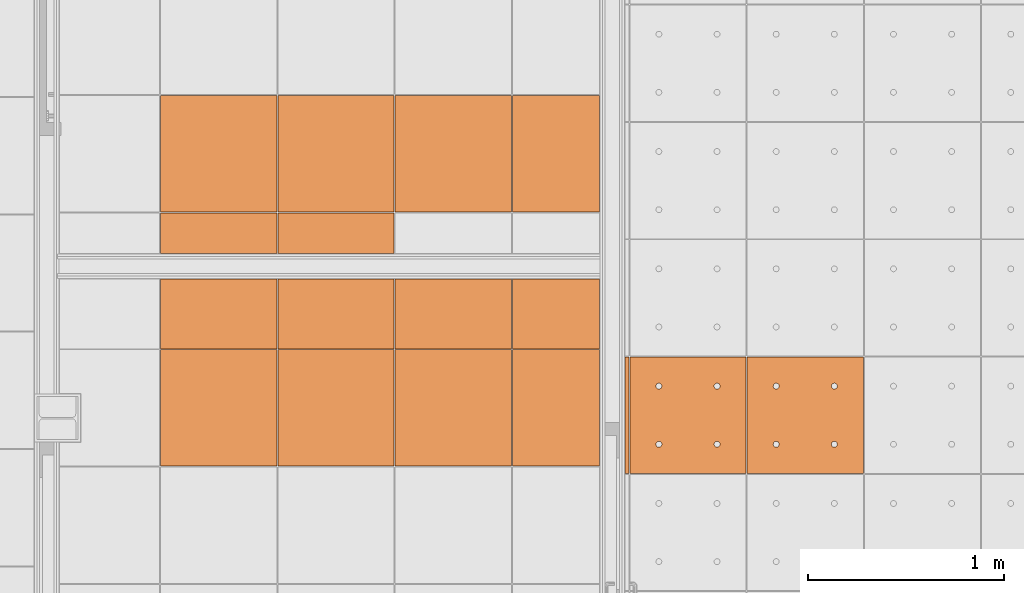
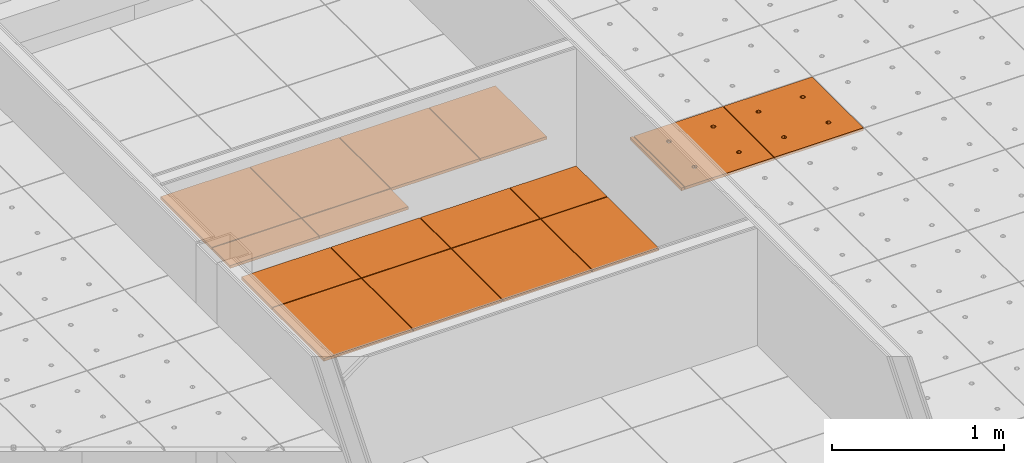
# One storey, part 299 of 338: 17 proxies, 3 elements without a shape of their own.
"""IFC2X3 building model written with IfcOpenShell, lengths in millimetres."""

from ifc_helpers import new_model, entity, si_unit, converted_unit, derived_unit, money_unit, direction, frame, origin_with_axes, place, context, subcontext, project, spatial, faceted_brep, source, transform, mapped, material, type_object, type_shapes, element, aggregate, save


model = new_model("IFC2X3")

# Units and contexts
model_context = context("Model", 3, precision=0.01, world=origin_with_axes(), true_north=direction((0.0, 1.0)))
plan_context = context("Plan", 3, precision=0.01, world=origin_with_axes(), true_north=direction((0.0, 1.0)))
body_context = subcontext(model_context, "Body", "Model", "MODEL_VIEW")
ifc_project = project(units=[si_unit("LENGTHUNIT", "METRE", prefix="MILLI"), si_unit("AREAUNIT", "SQUARE_METRE"), si_unit("VOLUMEUNIT", "CUBIC_METRE"), converted_unit("PLANEANGLEUNIT", "DEGREE", entity("IfcPlaneAngleMeasure", 0.0174532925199), si_unit("PLANEANGLEUNIT", "RADIAN"), dimensions=[0, 0, 0, 0, 0, 0, 0]), money_unit("EUR"), converted_unit("TIMEUNIT", "Year", entity("IfcTimeMeasure", 31556926.0), si_unit("TIMEUNIT", "SECOND"), dimensions=[0, 0, 1, 0, 0, 0, 0]), si_unit("MASSUNIT", "GRAM", prefix="KILO"), si_unit("THERMODYNAMICTEMPERATUREUNIT", "DEGREE_CELSIUS"), si_unit("LUMINOUSINTENSITYUNIT", "LUMEN"), si_unit("ENERGYUNIT", "JOULE", prefix="MEGA"), derived_unit("THERMALCONDUCTANCEUNIT", [(si_unit("POWERUNIT", "WATT"), 1), (si_unit("LENGTHUNIT", "METRE"), -1), (si_unit("THERMODYNAMICTEMPERATUREUNIT", "KELVIN"), -1)]), derived_unit("SPECIFICHEATCAPACITYUNIT", [(si_unit("ENERGYUNIT", "JOULE"), 1), (si_unit("MASSUNIT", "GRAM", prefix="KILO"), -1), (si_unit("THERMODYNAMICTEMPERATUREUNIT", "KELVIN"), -1)]), derived_unit("MASSDENSITYUNIT", [(si_unit("MASSUNIT", "GRAM", prefix="KILO"), 1), (si_unit("VOLUMEUNIT", "CUBIC_METRE"), -1)])], contexts=[model_context, plan_context])

# Site, building, storey
site_placement = place(None, origin_with_axes())
site = spatial("IfcSite", under=ifc_project, at=site_placement, Name="Fortuinstraat Woensdrecht", CompositionType="ELEMENT")
building_placement = place(site_placement, origin_with_axes())
building = spatial("IfcBuilding", under=site, at=building_placement, Name="IKC Fortuna", CompositionType="ELEMENT")
storey_placement = place(building_placement, origin_with_axes())
storey = spatial("IfcBuildingStorey", under=building, at=storey_placement, Name="00 begane grond", CompositionType="ELEMENT", Elevation=0.0)

# Covering, proxies
covering_type = type_object("IfcCoveringType", Name="Curtain Wall Type", PredefinedType="CEILING")
covering_1_placement = place(storey_placement, frame((21994.4445848, 33013.5541843, 2810.0), z_axis=(0.0, 0.0, 1.0), x_axis=(1.0, 0.0, 0.0)))
covering_1 = element("IfcCovering", 1, at=covering_1_placement, inside=storey, type_object=covering_type, Name="45_Plafondafwerking_P02", PredefinedType="CEILING")
ifc_material = material(Name="Gipsplaat")
building_element_proxy_type_1 = type_object("IfcBuildingElementProxyType", Name="Distinct Panel 600 x 600 x 20", PredefinedType="NOTDEFINED")
shared_shape_1 = source(origin_with_axes(), body_context, "Body", "Brep", [
    faceted_brep([(2.49999999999, 2.5, -10.0), (597.5, 2.49999999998, -10.0), (597.5, 2.49999999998, 10.0), (2.49999999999, 2.5, 10.0), (2.50000000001, 597.5, -10.0), (597.5, 597.5, -10.0), (597.5, 597.5, 10.0), (2.50000000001, 597.5, 10.0)], [[[0, 1, 2, 3]], [[0, 4, 5, 1]], [[1, 5, 6, 2]], [[3, 2, 6, 7]], [[4, 0, 3, 7]], [[5, 4, 7, 6]]]),
])
type_shapes(building_element_proxy_type_1, [shared_shape_1])
proxy_1_placement = place(covering_1_placement, frame((-600.0, 406.242354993, 0.0), z_axis=(0.0, 0.0, 1.0), x_axis=(1.0, 0.0, 0.0)))
proxy_1 = element("IfcBuildingElementProxy", 2, at=proxy_1_placement, type_object=building_element_proxy_type_1, material=ifc_material, Name="__Panel-D", context=body_context, shape_type="MappedRepresentation", body=[
    mapped(shared_shape_1, transform((300.0, 300.0, 0.0), x_axis=(-1.0, 0.0, 0.0), y_axis=(0.0, -1.0, 0.0), z_axis=(0.0, 0.0, 1.0))),
])
proxy_2_placement = place(covering_1_placement, frame((0.0, 406.242354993, 0.0), z_axis=(0.0, 0.0, 1.0), x_axis=(1.0, 0.0, 0.0)))
proxy_2 = element("IfcBuildingElementProxy", 3, at=proxy_2_placement, type_object=building_element_proxy_type_1, material=ifc_material, Name="__Panel-D", context=body_context, shape_type="MappedRepresentation", body=[
    mapped(shared_shape_1, transform((300.0, 300.0, 0.0), x_axis=(-1.0, 0.0, 0.0), y_axis=(0.0, -1.0, 0.0), z_axis=(0.0, 0.0, 1.0))),
])
proxy_3_placement = place(covering_1_placement, frame((600.0, 406.242354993, 0.0), z_axis=(0.0, 0.0, 1.0), x_axis=(1.0, 0.0, 0.0)))
proxy_3 = element("IfcBuildingElementProxy", 4, at=proxy_3_placement, type_object=building_element_proxy_type_1, material=ifc_material, Name="__Panel-D", context=body_context, shape_type="MappedRepresentation", body=[
    mapped(shared_shape_1, transform((300.0, 300.0, 0.0), x_axis=(-1.0, 0.0, 0.0), y_axis=(0.0, -1.0, 0.0), z_axis=(0.0, 0.0, 1.0))),
])

covering_2_placement = place(storey_placement, frame((22594.4446507, 31013.6071773, 2810.0), z_axis=(0.0, 0.0, 1.0), x_axis=(1.0, 0.0, 0.0)))
covering_2 = element("IfcCovering", 5, at=covering_2_placement, inside=storey, type_object=covering_type, Name="45_Plafondafwerking_P02", PredefinedType="CEILING")
proxy_4_placement = place(covering_2_placement, frame((-1200.0, 1106.20459282, 0.0), z_axis=(0.0, 0.0, 1.0), x_axis=(1.0, 0.0, 0.0)))
proxy_4 = element("IfcBuildingElementProxy", 6, at=proxy_4_placement, type_object=building_element_proxy_type_1, material=ifc_material, Name="__Panel-D", context=body_context, shape_type="MappedRepresentation", body=[
    mapped(shared_shape_1, transform((300.0, 300.0, 0.0), x_axis=(-1.0, 0.0, 0.0), y_axis=(0.0, -1.0, 0.0), z_axis=(0.0, 0.0, 1.0))),
])
proxy_5_placement = place(covering_2_placement, frame((0.0, 1106.20459282, 0.0), z_axis=(0.0, 0.0, 1.0), x_axis=(1.0, 0.0, 0.0)))
proxy_5 = element("IfcBuildingElementProxy", 7, at=proxy_5_placement, type_object=building_element_proxy_type_1, material=ifc_material, Name="__Panel-D", context=body_context, shape_type="MappedRepresentation", body=[
    mapped(shared_shape_1, transform((300.0, 300.0, 0.0), x_axis=(-1.0, 0.0, 0.0), y_axis=(0.0, -1.0, 0.0), z_axis=(0.0, 0.0, 1.0))),
])
proxy_6_placement = place(covering_2_placement, frame((-600.0, 1106.20459282, 0.0), z_axis=(0.0, 0.0, 1.0), x_axis=(1.0, 0.0, 0.0)))
proxy_6 = element("IfcBuildingElementProxy", 8, at=proxy_6_placement, type_object=building_element_proxy_type_1, material=ifc_material, Name="__Panel-D", context=body_context, shape_type="MappedRepresentation", body=[
    mapped(shared_shape_1, transform((300.0, 300.0, 0.0), x_axis=(-1.0, 0.0, 0.0), y_axis=(0.0, -1.0, 0.0), z_axis=(0.0, 0.0, 1.0))),
])

# Proxy
building_element_proxy_type_2 = type_object("IfcBuildingElementProxyType", Name="Distinct Panel 600 x 212 x 20", PredefinedType="NOTDEFINED")
shared_shape_2 = source(origin_with_axes(), body_context, "Body", "Brep", [
    faceted_brep([(2.5, 2.49999859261, -10.0), (597.5, 2.4999985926, -10.0), (597.5, 2.4999985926, 10.0), (2.5, 2.49999859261, 10.0), (2.5, 209.984709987, -10.0), (597.5, 209.984709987, -10.0), (597.5, 209.984709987, 10.0), (2.5, 209.984709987, 10.0)], [[[0, 1, 2, 3]], [[0, 4, 5, 1]], [[1, 5, 6, 2]], [[3, 2, 6, 7]], [[4, 0, 3, 7]], [[5, 4, 7, 6]]]),
])
type_shapes(building_element_proxy_type_2, [shared_shape_2])
proxy_7_placement = place(covering_1_placement, origin_with_axes())
proxy_7 = element("IfcBuildingElementProxy", 9, at=proxy_7_placement, type_object=building_element_proxy_type_2, material=ifc_material, Name="__Panel-D", context=body_context, shape_type="MappedRepresentation", body=[
    mapped(shared_shape_2, transform((300.0, 106.242354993, 0.0), x_axis=(-1.0, 0.0, 0.0), y_axis=(0.0, -1.0, 0.0), z_axis=(0.0, 0.0, 1.0))),
])

proxy_8_placement = place(covering_1_placement, frame((-600.0, 0.0, 0.0), z_axis=(0.0, 0.0, 1.0), x_axis=(1.0, 0.0, 0.0)))
proxy_8 = element("IfcBuildingElementProxy", 10, at=proxy_8_placement, type_object=building_element_proxy_type_2, material=ifc_material, Name="__Panel-D", context=body_context, shape_type="MappedRepresentation", body=[
    mapped(shared_shape_2, transform((300.0, 106.242354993, 0.0), x_axis=(-1.0, 0.0, 0.0), y_axis=(0.0, -1.0, 0.0), z_axis=(0.0, 0.0, 1.0))),
])

building_element_proxy_type_3 = type_object("IfcBuildingElementProxyType", Name="Distinct Panel 450 x 600 x 20", PredefinedType="NOTDEFINED")
shared_shape_3 = source(origin_with_axes(), body_context, "Body", "Brep", [
    faceted_brep([(152.589639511, 2.5, -10.0), (597.5, 2.49999999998, -10.0), (597.5, 2.49999999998, 10.0), (152.589639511, 2.5, 10.0), (152.589639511, 597.5, -10.0), (597.5, 597.5, -10.0), (597.5, 597.5, 10.0), (152.589639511, 597.5, 10.0)], [[[0, 1, 2, 3]], [[0, 4, 5, 1]], [[1, 5, 6, 2]], [[3, 2, 6, 7]], [[4, 0, 3, 7]], [[5, 4, 7, 6]]]),
])
type_shapes(building_element_proxy_type_3, [shared_shape_3])
proxy_9_placement = place(covering_1_placement, frame((1124.95518014, 406.242354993, 0.0), z_axis=(0.0, 0.0, 1.0), x_axis=(1.0, 0.0, 0.0)))
proxy_9 = element("IfcBuildingElementProxy", 11, at=proxy_9_placement, type_object=building_element_proxy_type_3, material=ifc_material, Name="__Panel-D", context=body_context, shape_type="MappedRepresentation", body=[
    mapped(shared_shape_3, transform((375.044819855, 300.0, 0.0), x_axis=(-1.0, 0.0, 0.0), y_axis=(0.0, -1.0, 0.0), z_axis=(0.0, 0.0, 1.0))),
])

aggregate(covering_1, [proxy_7, proxy_8, proxy_1, proxy_9, proxy_2, proxy_3])

proxy_10_placement = place(covering_2_placement, frame((524.955179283, 1106.20459282, 0.0), z_axis=(0.0, 0.0, 1.0), x_axis=(1.0, 0.0, 0.0)))
proxy_10 = element("IfcBuildingElementProxy", 12, at=proxy_10_placement, type_object=building_element_proxy_type_3, material=ifc_material, Name="__Panel-D", context=body_context, shape_type="MappedRepresentation", body=[
    mapped(shared_shape_3, transform((375.044820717, 300.0, 0.0), x_axis=(-1.0, 0.0, 0.0), y_axis=(0.0, -1.0, 0.0), z_axis=(0.0, 0.0, 1.0))),
])

building_element_proxy_type_4 = type_object("IfcBuildingElementProxyType", Name="Distinct Panel 600 x 363 x 20", PredefinedType="NOTDEFINED")
shared_shape_4 = source(origin_with_axes(), body_context, "Body", "Brep", [
    faceted_brep([(2.5, 239.999928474, -10.0), (597.5, 239.999919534, -10.0), (597.5, 239.999919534, 10.0), (2.5, 239.999928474, 10.0), (2.50000000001, 597.5, -10.0), (597.5, 597.5, -10.0), (597.5, 597.5, 10.0), (2.50000000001, 597.5, 10.0)], [[[0, 1, 2, 3]], [[0, 4, 5, 1]], [[1, 5, 6, 2]], [[3, 2, 6, 7]], [[4, 0, 3, 7]], [[5, 4, 7, 6]]]),
])
proxy_11_placement = place(covering_2_placement, frame((-1200.0, 1587.45463884, 0.0), z_axis=(0.0, 0.0, 1.0), x_axis=(1.0, 0.0, 0.0)))
proxy_11 = element("IfcBuildingElementProxy", 13, at=proxy_11_placement, type_object=building_element_proxy_type_4, material=ifc_material, Name="__Panel-D", context=body_context, shape_type="MappedRepresentation", body=[
    mapped(shared_shape_4, transform((300.0, 418.749981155, 0.0), x_axis=(-1.0, 0.0, 0.0), y_axis=(0.0, -1.0, 0.0), z_axis=(0.0, 0.0, 1.0))),
])

building_element_proxy_type_5 = type_object("IfcBuildingElementProxyType", Name="Distinct Panel 450 x 363 x 20", PredefinedType="NOTDEFINED")
shared_shape_5 = source(origin_with_axes(), body_context, "Body", "Brep", [
    faceted_brep([(152.589641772, 239.999924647, -10.0), (597.499999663, 239.999931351, -10.0), (597.499999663, 239.999931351, 10.0), (152.589641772, 239.999924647, 10.0), (152.589641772, 597.499999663, -10.0), (597.499999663, 597.499999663, -10.0), (597.499999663, 597.499999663, 10.0), (152.589641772, 597.499999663, 10.0)], [[[0, 1, 2, 3]], [[0, 4, 5, 1]], [[1, 5, 6, 2]], [[3, 2, 6, 7]], [[4, 0, 3, 7]], [[5, 4, 7, 6]]]),
])
type_shapes(building_element_proxy_type_5, [shared_shape_5])
proxy_12_placement = place(covering_2_placement, frame((524.955179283, 1587.45463821, 0.0), z_axis=(0.0, 0.0, 1.0), x_axis=(1.0, 0.0, 0.0)))
proxy_12 = element("IfcBuildingElementProxy", 14, at=proxy_12_placement, type_object=building_element_proxy_type_5, material=ifc_material, Name="__Panel-D", context=body_context, shape_type="MappedRepresentation", body=[
    mapped(shared_shape_5, transform((375.044820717, 418.749981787, 0.0), x_axis=(-1.0, 0.0, 0.0), y_axis=(0.0, -1.0, 0.0), z_axis=(0.0, 0.0, 1.0))),
])

shared_shape_6 = source(origin_with_axes(), body_context, "Body", "Brep", [
    faceted_brep([(2.5, 239.999928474, -10.0), (597.5, 239.999928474, -10.0), (597.5, 239.999928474, 10.0), (2.5, 239.999928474, 10.0), (2.50000000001, 597.5, -10.0), (597.5, 597.5, -10.0), (597.5, 597.5, 10.0), (2.50000000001, 597.5, 10.0)], [[[0, 1, 2, 3]], [[0, 4, 5, 1]], [[1, 5, 6, 2]], [[3, 2, 6, 7]], [[4, 0, 3, 7]], [[5, 4, 7, 6]]]),
])
proxy_13_placement = place(covering_2_placement, frame((0.0, 1587.45463668, 0.0), z_axis=(0.0, 0.0, 1.0), x_axis=(1.0, 0.0, 0.0)))
proxy_13 = element("IfcBuildingElementProxy", 15, at=proxy_13_placement, type_object=building_element_proxy_type_4, material=ifc_material, Name="__Panel-D", context=body_context, shape_type="MappedRepresentation", body=[
    mapped(shared_shape_6, transform((300.0, 418.749983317, 0.0), x_axis=(-1.0, 0.0, 0.0), y_axis=(0.0, -1.0, 0.0), z_axis=(0.0, 0.0, 1.0))),
])

shared_shape_7 = source(origin_with_axes(), body_context, "Body", "Brep", [
    faceted_brep([(2.5, 239.999928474, -10.0), (597.5, 239.999928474, -10.0), (597.5, 239.999928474, 10.0), (2.5, 239.999928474, 10.0), (2.50000000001, 597.5, -10.0), (597.5, 597.5, -10.0), (597.5, 597.5, 10.0), (2.50000000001, 597.5, 10.0)], [[[0, 1, 2, 3]], [[0, 4, 5, 1]], [[1, 5, 6, 2]], [[3, 2, 6, 7]], [[4, 0, 3, 7]], [[5, 4, 7, 6]]]),
])
type_shapes(building_element_proxy_type_4, [shared_shape_4, shared_shape_6, shared_shape_7])
proxy_14_placement = place(covering_2_placement, frame((-600.0, 1587.45463668, 0.0), z_axis=(0.0, 0.0, 1.0), x_axis=(1.0, 0.0, 0.0)))
proxy_14 = element("IfcBuildingElementProxy", 16, at=proxy_14_placement, type_object=building_element_proxy_type_4, material=ifc_material, Name="__Panel-D", context=body_context, shape_type="MappedRepresentation", body=[
    mapped(shared_shape_7, transform((300.0, 418.749983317, 0.0), x_axis=(-1.0, 0.0, 0.0), y_axis=(0.0, -1.0, 0.0), z_axis=(0.0, 0.0, 1.0))),
])

aggregate(covering_2, [proxy_10, proxy_4, proxy_11, proxy_12, proxy_5, proxy_13, proxy_6, proxy_14])

# Covering, proxies
covering_3_placement = place(storey_placement, frame((24394.3550152, 31482.3495284, 3210.0), z_axis=(0.0, 0.0, 1.0), x_axis=(1.0, 0.0, 0.0)))
covering_3 = element("IfcCovering", 17, at=covering_3_placement, inside=storey, type_object=covering_type, Name="45_Plafondafwerking_P01", PredefinedType="CEILING")
building_element_proxy_type_6 = type_object("IfcBuildingElementProxyType", Name="Main Panel 600 x 600 x 20", PredefinedType="NOTDEFINED")
shared_shape_8 = source(origin_with_axes(), body_context, "Body", "Brep", [
    faceted_brep([(2.49999999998, 2.49999999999, -10.0), (300.0, 2.49999999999, -10.0), (300.0, 2.49999999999, 10.0), (2.49999999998, 2.49999999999, 10.0), (2.49999999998, 300.0, -10.0), (2.49999999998, 597.5, -10.0), (300.0, 597.5, -10.0), (597.5, 597.5, -10.0), (597.5, 300.0, -10.0), (597.5, 2.49999999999, -10.0), (166.25, 450.06232995, -10.0), (165.79423259, 452.64711538, -10.0), (164.896546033, 455.11348892, -10.0), (163.58421608, 457.38651108, -10.0), (161.897117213, 459.39711721, -10.0), (159.886511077, 461.08421608, -10.0), (157.613488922, 462.39654603, -10.0), (155.147115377, 463.29423259, -10.0), (152.562329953, 463.75, -10.0), (149.937670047, 463.75, -10.0), (147.352884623, 463.29423259, -10.0), (144.886511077, 462.39654603, -10.0), (142.613488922, 461.08421608, -10.0), (140.602882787, 459.39711721, -10.0), (138.91578392, 457.38651108, -10.0), (137.603453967, 455.11348892, -10.0), (136.705767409, 452.64711538, -10.0), (136.25, 450.06232995, -10.0), (136.25, 448.75, -10.0), (136.25, 447.43767005, -10.0), (136.705767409, 444.85288462, -10.0), (137.603453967, 442.38651108, -10.0), (138.91578392, 440.11348892, -10.0), (140.602882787, 438.10288279, -10.0), (142.613488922, 436.41578392, -10.0), (144.886511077, 435.10345397, -10.0), (147.352884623, 434.20576741, -10.0), (149.937670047, 433.75, -10.0), (152.562329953, 433.75, -10.0), (155.147115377, 434.20576741, -10.0), (157.613488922, 435.10345397, -10.0), (159.886511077, 436.41578392, -10.0), (161.897117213, 438.10288279, -10.0), (163.58421608, 440.11348892, -10.0), (164.896546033, 442.38651108, -10.0), (165.79423259, 444.85288462, -10.0), (166.25, 447.43767005, -10.0), (463.75, 450.06232995, -10.0), (463.29423259, 452.64711538, -10.0), (462.396546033, 455.11348892, -10.0), (461.08421608, 457.38651108, -10.0), (459.397117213, 459.39711721, -10.0), (457.386511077, 461.08421608, -10.0), (455.113488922, 462.39654603, -10.0), (452.647115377, 463.29423259, -10.0), (450.062329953, 463.75, -10.0), (447.437670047, 463.75, -10.0), (444.852884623, 463.29423259, -10.0), (442.386511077, 462.39654603, -10.0), (440.113488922, 461.08421608, -10.0), (438.102882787, 459.39711721, -10.0), (436.41578392, 457.38651108, -10.0), (435.103453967, 455.11348892, -10.0), (434.205767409, 452.64711538, -10.0), (433.75, 450.06232995, -10.0), (433.75, 448.75, -10.0), (433.75, 447.43767005, -10.0), (434.205767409, 444.85288462, -10.0), (435.103453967, 442.38651108, -10.0), (436.41578392, 440.11348892, -10.0), (438.102882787, 438.10288279, -10.0), (440.113488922, 436.41578392, -10.0), (442.386511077, 435.10345397, -10.0), (444.852884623, 434.20576741, -10.0), (447.437670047, 433.75, -10.0), (450.062329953, 433.75, -10.0), (452.647115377, 434.20576741, -10.0), (455.113488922, 435.10345397, -10.0), (457.386511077, 436.41578392, -10.0), (459.397117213, 438.10288279, -10.0), (461.08421608, 440.11348892, -10.0), (462.396546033, 442.38651108, -10.0), (463.29423259, 444.85288462, -10.0), (463.75, 447.43767005, -10.0), (463.75, 152.56232995, -10.0), (463.29423259, 155.14711538, -10.0), (462.396546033, 157.61348892, -10.0), (461.08421608, 159.88651108, -10.0), (459.397117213, 161.89711721, -10.0), (457.386511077, 163.58421608, -10.0), (455.113488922, 164.89654603, -10.0), (452.647115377, 165.79423259, -10.0), (450.062329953, 166.25, -10.0), (447.437670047, 166.25, -10.0), (444.852884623, 165.79423259, -10.0), (442.386511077, 164.89654603, -10.0), (440.113488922, 163.58421608, -10.0), (438.102882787, 161.89711721, -10.0), (436.41578392, 159.88651108, -10.0), (435.103453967, 157.61348892, -10.0), (434.205767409, 155.14711538, -10.0), (433.75, 152.56232995, -10.0), (433.75, 151.25, -10.0), (433.75, 149.93767005, -10.0), (434.205767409, 147.35288462, -10.0), (435.103453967, 144.88651108, -10.0), (436.41578392, 142.61348892, -10.0), (438.102882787, 140.60288279, -10.0), (440.113488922, 138.91578392, -10.0), (442.386511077, 137.60345397, -10.0), (444.852884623, 136.70576741, -10.0), (447.437670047, 136.25, -10.0), (450.062329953, 136.25, -10.0), (452.647115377, 136.70576741, -10.0), (455.113488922, 137.60345397, -10.0), (457.386511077, 138.91578392, -10.0), (459.397117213, 140.60288279, -10.0), (461.08421608, 142.61348892, -10.0), (462.396546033, 144.88651108, -10.0), (463.29423259, 147.35288462, -10.0), (463.75, 149.93767005, -10.0), (166.25, 152.56232995, -10.0), (165.79423259, 155.14711538, -10.0), (164.896546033, 157.61348892, -10.0), (163.58421608, 159.88651108, -10.0), (161.897117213, 161.89711721, -10.0), (159.886511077, 163.58421608, -10.0), (157.613488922, 164.89654603, -10.0), (155.147115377, 165.79423259, -10.0), (152.562329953, 166.25, -10.0), (149.937670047, 166.25, -10.0), (147.352884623, 165.79423259, -10.0), (144.886511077, 164.89654603, -10.0), (142.613488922, 163.58421608, -10.0), (140.602882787, 161.89711721, -10.0), (138.91578392, 159.88651108, -10.0), (137.603453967, 157.61348892, -10.0), (136.705767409, 155.14711538, -10.0), (136.25, 152.56232995, -10.0), (136.25, 151.25, -10.0), (136.25, 149.93767005, -10.0), (136.705767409, 147.35288462, -10.0), (137.603453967, 144.88651108, -10.0), (138.91578392, 142.61348892, -10.0), (140.602882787, 140.60288279, -10.0), (142.613488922, 138.91578392, -10.0), (144.886511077, 137.60345397, -10.0), (147.352884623, 136.70576741, -10.0), (149.937670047, 136.25, -10.0), (152.562329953, 136.25, -10.0), (155.147115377, 136.70576741, -10.0), (157.613488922, 137.60345397, -10.0), (159.886511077, 138.91578392, -10.0), (161.897117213, 140.60288279, -10.0), (163.58421608, 142.61348892, -10.0), (164.896546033, 144.88651108, -10.0), (165.79423259, 147.35288462, -10.0), (166.25, 149.93767005, -10.0), (597.5, 2.49999999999, 10.0), (597.5, 300.0, 10.0), (597.5, 597.5, 10.0), (300.0, 597.5, 10.0), (2.49999999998, 597.5, 10.0), (2.49999999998, 300.0, 10.0), (166.25, 450.06232995, 10.0), (166.25, 447.43767005, 10.0), (165.79423259, 444.85288462, 10.0), (164.896546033, 442.38651108, 10.0), (163.58421608, 440.11348892, 10.0), (161.897117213, 438.10288279, 10.0), (159.886511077, 436.41578392, 10.0), (157.613488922, 435.10345397, 10.0), (155.147115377, 434.20576741, 10.0), (152.562329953, 433.75, 10.0), (149.937670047, 433.75, 10.0), (147.352884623, 434.20576741, 10.0), (144.886511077, 435.10345397, 10.0), (142.613488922, 436.41578392, 10.0), (140.602882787, 438.10288279, 10.0), (138.91578392, 440.11348892, 10.0), (137.603453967, 442.38651108, 10.0), (136.705767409, 444.85288462, 10.0), (136.25, 447.43767005, 10.0), (136.25, 448.75, 10.0), (136.25, 450.06232995, 10.0), (136.705767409, 452.64711538, 10.0), (137.603453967, 455.11348892, 10.0), (138.91578392, 457.38651108, 10.0), (140.602882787, 459.39711721, 10.0), (142.613488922, 461.08421608, 10.0), (144.886511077, 462.39654603, 10.0), (147.352884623, 463.29423259, 10.0), (149.937670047, 463.75, 10.0), (152.562329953, 463.75, 10.0), (155.147115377, 463.29423259, 10.0), (157.613488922, 462.39654603, 10.0), (159.886511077, 461.08421608, 10.0), (161.897117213, 459.39711721, 10.0), (163.58421608, 457.38651108, 10.0), (164.896546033, 455.11348892, 10.0), (165.79423259, 452.64711538, 10.0), (463.75, 450.06232995, 10.0), (463.75, 447.43767005, 10.0), (463.29423259, 444.85288462, 10.0), (462.396546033, 442.38651108, 10.0), (461.08421608, 440.11348892, 10.0), (459.397117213, 438.10288279, 10.0), (457.386511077, 436.41578392, 10.0), (455.113488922, 435.10345397, 10.0), (452.647115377, 434.20576741, 10.0), (450.062329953, 433.75, 10.0), (447.437670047, 433.75, 10.0), (444.852884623, 434.20576741, 10.0), (442.386511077, 435.10345397, 10.0), (440.113488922, 436.41578392, 10.0), (438.102882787, 438.10288279, 10.0), (436.41578392, 440.11348892, 10.0), (435.103453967, 442.38651108, 10.0), (434.205767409, 444.85288462, 10.0), (433.75, 447.43767005, 10.0), (433.75, 448.75, 10.0), (433.75, 450.06232995, 10.0), (434.205767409, 452.64711538, 10.0), (435.103453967, 455.11348892, 10.0), (436.41578392, 457.38651108, 10.0), (438.102882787, 459.39711721, 10.0), (440.113488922, 461.08421608, 10.0), (442.386511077, 462.39654603, 10.0), (444.852884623, 463.29423259, 10.0), (447.437670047, 463.75, 10.0), (450.062329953, 463.75, 10.0), (452.647115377, 463.29423259, 10.0), (455.113488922, 462.39654603, 10.0), (457.386511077, 461.08421608, 10.0), (459.397117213, 459.39711721, 10.0), (461.08421608, 457.38651108, 10.0), (462.396546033, 455.11348892, 10.0), (463.29423259, 452.64711538, 10.0), (463.75, 152.56232995, 10.0), (463.75, 149.93767005, 10.0), (463.29423259, 147.35288462, 10.0), (462.396546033, 144.88651108, 10.0), (461.08421608, 142.61348892, 10.0), (459.397117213, 140.60288279, 10.0), (457.386511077, 138.91578392, 10.0), (455.113488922, 137.60345397, 10.0), (452.647115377, 136.70576741, 10.0), (450.062329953, 136.25, 10.0), (447.437670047, 136.25, 10.0), (444.852884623, 136.70576741, 10.0), (442.386511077, 137.60345397, 10.0), (440.113488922, 138.91578392, 10.0), (438.102882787, 140.60288279, 10.0), (436.41578392, 142.61348892, 10.0), (435.103453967, 144.88651108, 10.0), (434.205767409, 147.35288462, 10.0), (433.75, 149.93767005, 10.0), (433.75, 151.25, 10.0), (433.75, 152.56232995, 10.0), (434.205767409, 155.14711538, 10.0), (435.103453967, 157.61348892, 10.0), (436.41578392, 159.88651108, 10.0), (438.102882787, 161.89711721, 10.0), (440.113488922, 163.58421608, 10.0), (442.386511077, 164.89654603, 10.0), (444.852884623, 165.79423259, 10.0), (447.437670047, 166.25, 10.0), (450.062329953, 166.25, 10.0), (452.647115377, 165.79423259, 10.0), (455.113488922, 164.89654603, 10.0), (457.386511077, 163.58421608, 10.0), (459.397117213, 161.89711721, 10.0), (461.08421608, 159.88651108, 10.0), (462.396546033, 157.61348892, 10.0), (463.29423259, 155.14711538, 10.0), (166.25, 152.56232995, 10.0), (166.25, 149.93767005, 10.0), (165.79423259, 147.35288462, 10.0), (164.896546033, 144.88651108, 10.0), (163.58421608, 142.61348892, 10.0), (161.897117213, 140.60288279, 10.0), (159.886511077, 138.91578392, 10.0), (157.613488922, 137.60345397, 10.0), (155.147115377, 136.70576741, 10.0), (152.562329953, 136.25, 10.0), (149.937670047, 136.25, 10.0), (147.352884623, 136.70576741, 10.0), (144.886511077, 137.60345397, 10.0), (142.613488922, 138.91578392, 10.0), (140.602882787, 140.60288279, 10.0), (138.91578392, 142.61348892, 10.0), (137.603453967, 144.88651108, 10.0), (136.705767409, 147.35288462, 10.0), (136.25, 149.93767005, 10.0), (136.25, 151.25, 10.0), (136.25, 152.56232995, 10.0), (136.705767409, 155.14711538, 10.0), (137.603453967, 157.61348892, 10.0), (138.91578392, 159.88651108, 10.0), (140.602882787, 161.89711721, 10.0), (142.613488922, 163.58421608, 10.0), (144.886511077, 164.89654603, 10.0), (147.352884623, 165.79423259, 10.0), (149.937670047, 166.25, 10.0), (152.562329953, 166.25, 10.0), (155.147115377, 165.79423259, 10.0), (157.613488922, 164.89654603, 10.0), (159.886511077, 163.58421608, 10.0), (161.897117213, 161.89711721, 10.0), (163.58421608, 159.88651108, 10.0), (164.896546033, 157.61348892, 10.0), (165.79423259, 155.14711538, 10.0)], [[[0, 1, 2, 3]], [[0, 4, 5, 6, 7, 8, 9, 1], [10, 11, 12, 13, 14, 15, 16, 17, 18, 19, 20, 21, 22, 23, 24, 25, 26, 27, 28, 29, 30, 31, 32, 33, 34, 35, 36, 37, 38, 39, 40, 41, 42, 43, 44, 45, 46], [47, 48, 49, 50, 51, 52, 53, 54, 55, 56, 57, 58, 59, 60, 61, 62, 63, 64, 65, 66, 67, 68, 69, 70, 71, 72, 73, 74, 75, 76, 77, 78, 79, 80, 81, 82, 83], [84, 85, 86, 87, 88, 89, 90, 91, 92, 93, 94, 95, 96, 97, 98, 99, 100, 101, 102, 103, 104, 105, 106, 107, 108, 109, 110, 111, 112, 113, 114, 115, 116, 117, 118, 119, 120], [121, 122, 123, 124, 125, 126, 127, 128, 129, 130, 131, 132, 133, 134, 135, 136, 137, 138, 139, 140, 141, 142, 143, 144, 145, 146, 147, 148, 149, 150, 151, 152, 153, 154, 155, 156, 157]], [[1, 9, 158, 2]], [[3, 2, 158, 159, 160, 161, 162, 163], [164, 165, 166, 167, 168, 169, 170, 171, 172, 173, 174, 175, 176, 177, 178, 179, 180, 181, 182, 183, 184, 185, 186, 187, 188, 189, 190, 191, 192, 193, 194, 195, 196, 197, 198, 199, 200], [201, 202, 203, 204, 205, 206, 207, 208, 209, 210, 211, 212, 213, 214, 215, 216, 217, 218, 219, 220, 221, 222, 223, 224, 225, 226, 227, 228, 229, 230, 231, 232, 233, 234, 235, 236, 237], [238, 239, 240, 241, 242, 243, 244, 245, 246, 247, 248, 249, 250, 251, 252, 253, 254, 255, 256, 257, 258, 259, 260, 261, 262, 263, 264, 265, 266, 267, 268, 269, 270, 271, 272, 273, 274], [275, 276, 277, 278, 279, 280, 281, 282, 283, 284, 285, 286, 287, 288, 289, 290, 291, 292, 293, 294, 295, 296, 297, 298, 299, 300, 301, 302, 303, 304, 305, 306, 307, 308, 309, 310, 311]], [[4, 0, 3, 163]], [[5, 4, 163, 162]], [[6, 5, 162, 161]], [[7, 6, 161, 160]], [[8, 7, 160, 159]], [[9, 8, 159, 158]], [[11, 10, 164, 200]], [[12, 11, 200, 199]], [[13, 12, 199, 198]], [[14, 13, 198, 197]], [[15, 14, 197, 196]], [[16, 15, 196, 195]], [[17, 16, 195, 194]], [[18, 17, 194, 193]], [[19, 18, 193, 192]], [[20, 19, 192, 191]], [[21, 20, 191, 190]], [[22, 21, 190, 189]], [[23, 22, 189, 188]], [[24, 23, 188, 187]], [[25, 24, 187, 186]], [[26, 25, 186, 185]], [[27, 26, 185, 184]], [[28, 27, 184, 183]], [[29, 28, 183, 182]], [[30, 29, 182, 181]], [[31, 30, 181, 180]], [[32, 31, 180, 179]], [[33, 32, 179, 178]], [[34, 33, 178, 177]], [[35, 34, 177, 176]], [[36, 35, 176, 175]], [[37, 36, 175, 174]], [[38, 37, 174, 173]], [[39, 38, 173, 172]], [[40, 39, 172, 171]], [[41, 40, 171, 170]], [[42, 41, 170, 169]], [[43, 42, 169, 168]], [[44, 43, 168, 167]], [[45, 44, 167, 166]], [[46, 45, 166, 165]], [[10, 46, 165, 164]], [[48, 47, 201, 237]], [[49, 48, 237, 236]], [[50, 49, 236, 235]], [[51, 50, 235, 234]], [[52, 51, 234, 233]], [[53, 52, 233, 232]], [[54, 53, 232, 231]], [[55, 54, 231, 230]], [[56, 55, 230, 229]], [[57, 56, 229, 228]], [[58, 57, 228, 227]], [[59, 58, 227, 226]], [[60, 59, 226, 225]], [[61, 60, 225, 224]], [[62, 61, 224, 223]], [[63, 62, 223, 222]], [[64, 63, 222, 221]], [[65, 64, 221, 220]], [[66, 65, 220, 219]], [[67, 66, 219, 218]], [[68, 67, 218, 217]], [[69, 68, 217, 216]], [[70, 69, 216, 215]], [[71, 70, 215, 214]], [[72, 71, 214, 213]], [[73, 72, 213, 212]], [[74, 73, 212, 211]], [[75, 74, 211, 210]], [[76, 75, 210, 209]], [[77, 76, 209, 208]], [[78, 77, 208, 207]], [[79, 78, 207, 206]], [[80, 79, 206, 205]], [[81, 80, 205, 204]], [[82, 81, 204, 203]], [[83, 82, 203, 202]], [[47, 83, 202, 201]], [[85, 84, 238, 274]], [[86, 85, 274, 273]], [[87, 86, 273, 272]], [[88, 87, 272, 271]], [[89, 88, 271, 270]], [[90, 89, 270, 269]], [[91, 90, 269, 268]], [[92, 91, 268, 267]], [[93, 92, 267, 266]], [[94, 93, 266, 265]], [[95, 94, 265, 264]], [[96, 95, 264, 263]], [[97, 96, 263, 262]], [[98, 97, 262, 261]], [[99, 98, 261, 260]], [[100, 99, 260, 259]], [[101, 100, 259, 258]], [[102, 101, 258, 257]], [[103, 102, 257, 256]], [[104, 103, 256, 255]], [[105, 104, 255, 254]], [[106, 105, 254, 253]], [[107, 106, 253, 252]], [[108, 107, 252, 251]], [[109, 108, 251, 250]], [[110, 109, 250, 249]], [[111, 110, 249, 248]], [[112, 111, 248, 247]], [[113, 112, 247, 246]], [[114, 113, 246, 245]], [[115, 114, 245, 244]], [[116, 115, 244, 243]], [[117, 116, 243, 242]], [[118, 117, 242, 241]], [[119, 118, 241, 240]], [[120, 119, 240, 239]], [[84, 120, 239, 238]], [[122, 121, 275, 311]], [[123, 122, 311, 310]], [[124, 123, 310, 309]], [[125, 124, 309, 308]], [[126, 125, 308, 307]], [[127, 126, 307, 306]], [[128, 127, 306, 305]], [[129, 128, 305, 304]], [[130, 129, 304, 303]], [[131, 130, 303, 302]], [[132, 131, 302, 301]], [[133, 132, 301, 300]], [[134, 133, 300, 299]], [[135, 134, 299, 298]], [[136, 135, 298, 297]], [[137, 136, 297, 296]], [[138, 137, 296, 295]], [[139, 138, 295, 294]], [[140, 139, 294, 293]], [[141, 140, 293, 292]], [[142, 141, 292, 291]], [[143, 142, 291, 290]], [[144, 143, 290, 289]], [[145, 144, 289, 288]], [[146, 145, 288, 287]], [[147, 146, 287, 286]], [[148, 147, 286, 285]], [[149, 148, 285, 284]], [[150, 149, 284, 283]], [[151, 150, 283, 282]], [[152, 151, 282, 281]], [[153, 152, 281, 280]], [[154, 153, 280, 279]], [[155, 154, 279, 278]], [[156, 155, 278, 277]], [[157, 156, 277, 276]], [[121, 157, 276, 275]]]),
])
type_shapes(building_element_proxy_type_6, [shared_shape_8])
proxy_15_placement = place(covering_3_placement, frame((0.0, 600.0, 1.46105350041e-10), z_axis=(0.0, 0.0, 1.0), x_axis=(1.0, 0.0, 0.0)))
proxy_15 = element("IfcBuildingElementProxy", 18, at=proxy_15_placement, type_object=building_element_proxy_type_6, material=ifc_material, Name="__600x612 Rockfon Krios", context=body_context, shape_type="MappedRepresentation", body=[
    mapped(shared_shape_8, transform((300.0, 300.0, 0.0), x_axis=(-1.0, 0.0, 0.0), y_axis=(0.0, -1.0, 0.0), z_axis=(0.0, 0.0, 1.0))),
])
proxy_16_placement = place(covering_3_placement, frame((-600.0, 600.0, 1.65645275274e-10), z_axis=(0.0, 0.0, 1.0), x_axis=(1.0, 0.0, 0.0)))
proxy_16 = element("IfcBuildingElementProxy", 19, at=proxy_16_placement, type_object=building_element_proxy_type_6, material=ifc_material, Name="__600x662 Rockfon Krios", context=body_context, shape_type="MappedRepresentation", body=[
    mapped(shared_shape_8, transform((300.0, 300.0, 0.0), x_axis=(-1.0, 0.0, 0.0), y_axis=(0.0, -1.0, 0.0), z_axis=(0.0, 0.0, 1.0))),
])
building_element_proxy_type_7 = type_object("IfcBuildingElementProxyType", Name="25 x 600 x 20", PredefinedType="NOTDEFINED")
shared_shape_9 = source(origin_with_axes(), body_context, "Body", "Brep", [
    faceted_brep([(2.49999895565, 2.5, -10.0), (22.5000615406, 2.5, -10.0), (22.5000615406, 2.5, 10.0), (2.49999895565, 2.5, 10.0), (2.49999895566, 597.5, -10.0), (22.5000615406, 597.5, -10.0), (22.5000615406, 597.5, 10.0), (2.49999895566, 597.5, 10.0)], [[[0, 1, 2, 3]], [[0, 4, 5, 1]], [[1, 5, 6, 2]], [[3, 2, 6, 7]], [[4, 0, 3, 7]], [[5, 4, 7, 6]]]),
])
type_shapes(building_element_proxy_type_7, [shared_shape_9])
proxy_17_placement = place(covering_3_placement, frame((-912.50003077, 600.0, 1.75859327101e-10), z_axis=(0.0, 0.0, 1.0), x_axis=(1.0, 0.0, 0.0)))
proxy_17 = element("IfcBuildingElementProxy", 20, at=proxy_17_placement, type_object=building_element_proxy_type_7, material=ifc_material, Name="__600x714 Rockfon Krios", context=body_context, shape_type="MappedRepresentation", body=[
    mapped(shared_shape_9, transform((12.5000307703, 300.0, 0.0), x_axis=(-1.0, 0.0, 0.0), y_axis=(0.0, -1.0, 0.0), z_axis=(0.0, 0.0, 1.0))),
])
aggregate(covering_3, [proxy_15, proxy_16, proxy_17])

save(model, "model.ifc")
